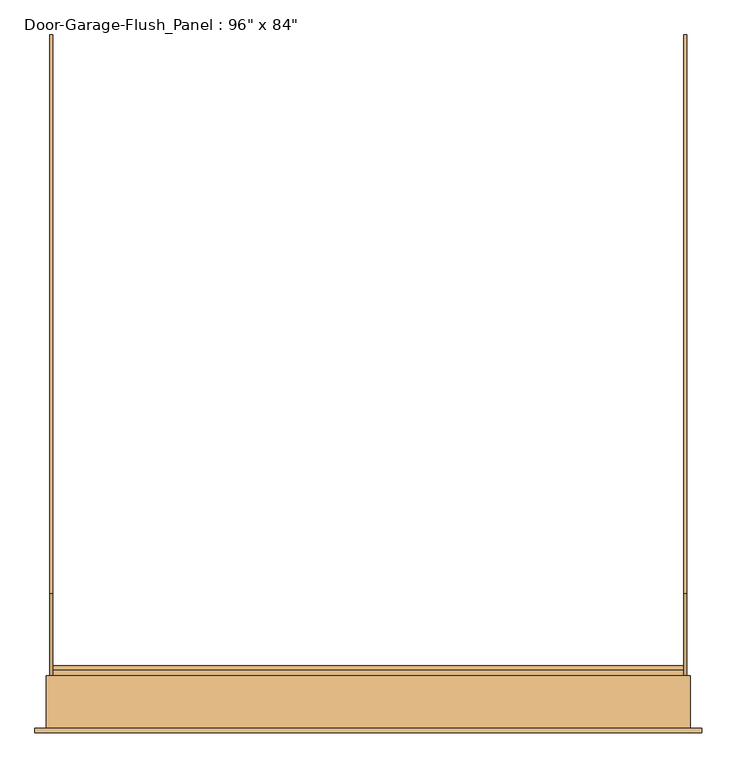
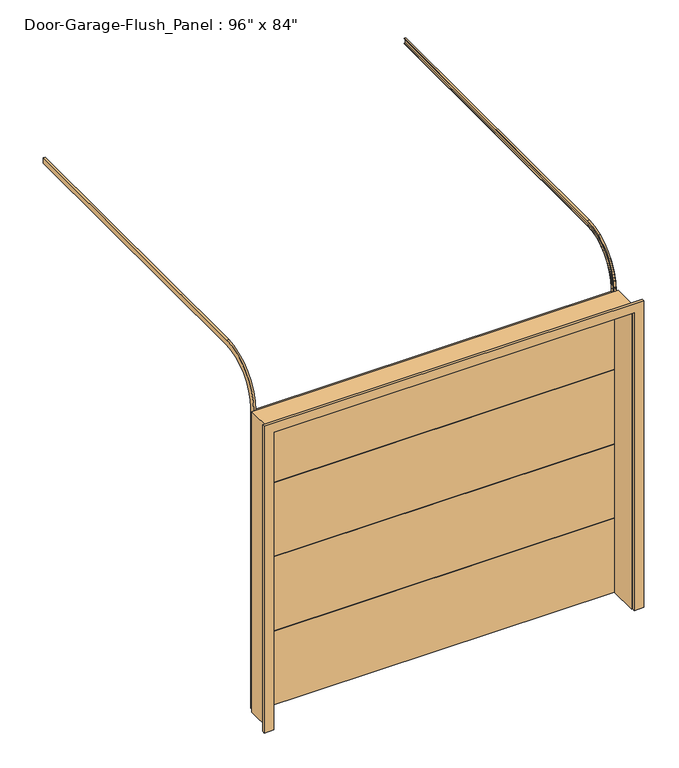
"""IFC4 building model written with IfcOpenShell, lengths in millimetres: door geometry."""

import ifcopenshell
import ifcopenshell.guid

model = None  # the IFC model being written
_history = None  # IfcOwnerHistory: only IFC2X3 demands one
_inside = {}  # id of a spatial element -> (the spatial element, [elements in it])
_under = {}  # id of a project, library or spatial element -> (it, [spatial elements below it])
_declared = {}  # id of a project -> (the project, [libraries it declares])
_typed = {}  # id of a type object -> (the type object, [elements of that type])
_made_of = {}  # id of a material, layer set ... -> (it, [elements and type objects made of it])


def new_model(schema):
    """Start an empty IFC model of exactly this schema.

    Asked for "IFC4X3", IfcOpenShell would pick the latest addendum, in which some entities
    have other attributes; the version numbers below select the first issue.
    IFC2X3 requires an IfcOwnerHistory on every rooted entity: one is made here for all.
    """
    global model, _history
    if schema == "IFC4X3":
        model = ifcopenshell.file(schema_version=(4, 3, 0, 0))
    else:
        model = ifcopenshell.file(schema=schema)
    _inside.clear()
    _under.clear()
    _declared.clear()
    _typed.clear()
    _made_of.clear()
    _history = None
    if model.schema == "IFC2X3":
        org = make("IfcOrganization", Name="unknown")
        user = make(
            "IfcPersonAndOrganization",
            ThePerson=make("IfcPerson", FamilyName="unknown"),
            TheOrganization=org,
        )
        app = make(
            "IfcApplication",
            ApplicationDeveloper=org,
            Version="unknown",
            ApplicationFullName="unknown",
            ApplicationIdentifier="unknown",
        )
        _history = make(
            "IfcOwnerHistory",
            OwningUser=user,
            OwningApplication=app,
            ChangeAction="ADDED",
            CreationDate=0,
        )
    return model


def make(cls, **values):
    """One entity of the class cls with the attributes given. An attribute that is None is left unset."""
    return model.create_entity(
        cls, **{name: value for name, value in values.items() if value is not None}
    )


def rooted(cls, **values):
    """An entity with a GlobalId (a new one), such as an element, a storey or a relation."""
    return make(cls, GlobalId=ifcopenshell.guid.new(), OwnerHistory=_history, **values)


def si_unit(unit_type, name, prefix=None):
    """IfcSIUnit, for example si_unit("LENGTHUNIT", "METRE", prefix="MILLI")."""
    return make("IfcSIUnit", UnitType=unit_type, Prefix=prefix, Name=name)


def assignment(units):
    """IfcUnitAssignment: the units of a project."""
    return None if units is None else make("IfcUnitAssignment", Units=units)


def point(xyz):
    """IfcCartesianPoint."""
    return None if xyz is None else make("IfcCartesianPoint", Coordinates=xyz)


def direction(xyz):
    """IfcDirection."""
    return None if xyz is None else make("IfcDirection", DirectionRatios=xyz)


def frame(location, z_axis=None, x_axis=None):
    """IfcAxis2Placement3D, a coordinate frame: its origin and axes. An axis left out is left unset."""
    return make(
        "IfcAxis2Placement3D",
        Location=point(location),
        Axis=direction(z_axis),
        RefDirection=direction(x_axis),
    )


def origin():
    """The frame at (0, 0, 0) with its axes left unset."""
    return frame((0.0, 0.0, 0.0))


def place(relative_to, where):
    """IfcLocalPlacement: puts the frame where relative to a parent placement (None: the world)."""
    return make(
        "IfcLocalPlacement", PlacementRelTo=relative_to, RelativePlacement=where
    )


def context(
    kind, dimensions, precision=None, world=None, true_north=None, identifier=None
):
    """IfcGeometricRepresentationContext, for example the 3D "Model" context."""
    return make(
        "IfcGeometricRepresentationContext",
        ContextIdentifier=identifier,
        ContextType=kind,
        CoordinateSpaceDimension=dimensions,
        Precision=precision,
        WorldCoordinateSystem=world,
        TrueNorth=true_north,
    )


def project(units=None, contexts=None):
    """IfcProject with its units and contexts."""
    return rooted(
        "IfcProject",
        Name="project",
        RepresentationContexts=contexts,
        UnitsInContext=assignment(units),
    )


def spatial(cls, under=None, at=None, **own):
    """A site, building, storey or space (cls), placed at a placement, below another one or the project."""
    s = rooted(cls, ObjectPlacement=at, **own)
    if under is not None:
        _under.setdefault(under.id(), (under, []))[1].append(s)
    return s


def polyline(points):
    """IfcPolyline through the points."""
    return make("IfcPolyline", Points=[point(p) for p in points])


def circle_curve(where, radius):
    """IfcCircle in the frame where."""
    return make("IfcCircle", Position=where, Radius=radius)


def outline(outer, holes=None, kind="AREA"):
    """IfcArbitraryClosedProfileDef: a profile drawn as a closed curve; with holes, ...WithVoids."""
    if holes is None:
        return make("IfcArbitraryClosedProfileDef", ProfileType=kind, OuterCurve=outer)
    return make(
        "IfcArbitraryProfileDefWithVoids",
        ProfileType=kind,
        OuterCurve=outer,
        InnerCurves=holes,
    )


def extrude(swept, where, along, depth):
    """IfcExtrudedAreaSolid: the profile swept, set in the frame where, extruded along a direction by depth."""
    return make(
        "IfcExtrudedAreaSolid",
        SweptArea=swept,
        Position=where,
        ExtrudedDirection=direction(along),
        Depth=depth,
    )


def shape(context_of_items, identifier, shape_type, items):
    """IfcShapeRepresentation: the items that make up one representation, for example the "Body"."""
    return make(
        "IfcShapeRepresentation",
        ContextOfItems=context_of_items,
        RepresentationIdentifier=identifier,
        RepresentationType=shape_type,
        Items=items,
    )


def source(mapping_origin, context_of_items, identifier, shape_type, items):
    """IfcRepresentationMap: a shape defined once, which mapped items show again and again."""
    return make(
        "IfcRepresentationMap",
        MappingOrigin=mapping_origin,
        MappedRepresentation=shape(context_of_items, identifier, shape_type, items),
    )


def transform(
    local_origin,
    x_axis=None,
    y_axis=None,
    z_axis=None,
    scale=None,
    scale2=None,
    scale3=None,
    uniform=True,
):
    """IfcCartesianTransformationOperator3D, or its non-uniform kind. x_axis, y_axis, z_axis: its Axis1, 2, 3."""
    if uniform:
        return make(
            "IfcCartesianTransformationOperator3D",
            Axis1=direction(x_axis),
            Axis2=direction(y_axis),
            LocalOrigin=point(local_origin),
            Scale=scale,
            Axis3=direction(z_axis),
        )
    return make(
        "IfcCartesianTransformationOperator3DnonUniform",
        Axis1=direction(x_axis),
        Axis2=direction(y_axis),
        LocalOrigin=point(local_origin),
        Scale=scale,
        Axis3=direction(z_axis),
        Scale2=scale2,
        Scale3=scale3,
    )


def mapped(mapping_source, mapping_target):
    """IfcMappedItem: shows the shape of a source again, moved by a transform."""
    return make(
        "IfcMappedItem", MappingSource=mapping_source, MappingTarget=mapping_target
    )


def made_of(thing, what):
    """Note that an element or type object is made of a material, layer set ...; save() writes the relation."""
    if what is not None:
        _made_of.setdefault(what.id(), (what, []))[1].append(thing)
    return thing


def element(
    cls,
    number,
    at=None,
    inside=None,
    cuts=None,
    type_object=None,
    material=None,
    context=None,
    identifier="Body",
    shape_type=None,
    held_by="IfcProductDefinitionShape",
    body=None,
    shapes=None,
    **own,
):
    """One element of the class cls, such as IfcWall. Its Tag is "e" and its number.

    at: its placement. inside: the storey or other place that contains it. cuts: it is an
    opening in that element (IfcRelVoidsElement). A single representation is given by context,
    identifier, shape_type and body (its items); several are given by shapes. held_by: the class
    of the entity that holds the representations. save() writes the other relations.
    """
    e = rooted(cls, Tag="e%d" % number, ObjectPlacement=at, **own)
    if body is not None:
        shapes = [shape(context, identifier, shape_type, body)]
    if shapes is not None:
        e.Representation = make(held_by, Representations=shapes)
    if inside is not None:
        _inside.setdefault(inside.id(), (inside, []))[1].append(e)
    if cuts is not None:
        rooted(
            "IfcRelVoidsElement", RelatingBuildingElement=cuts, RelatedOpeningElement=e
        )
    if type_object is not None:
        _typed.setdefault(type_object.id(), (type_object, []))[1].append(e)
    return made_of(e, material)


def aggregate(whole, parts):
    """IfcRelAggregates: a whole, such as a stair, and the parts it consists of."""
    return rooted("IfcRelAggregates", RelatingObject=whole, RelatedObjects=parts)


def save(model, path):
    """Write the relations noted so far, then the file.

    IfcRelAggregates (storeys below a building ...), IfcRelContainedInSpatialStructure (elements
    in a storey), IfcRelDefinesByType, IfcRelAssociatesMaterial and IfcRelDeclares: one each for
    every whole, place, type object, material and project.
    """
    for whole, parts in _under.values():
        aggregate(whole, parts)
    for where, things in _inside.values():
        rooted(
            "IfcRelContainedInSpatialStructure",
            RelatedElements=things,
            RelatingStructure=where,
        )
    for kind, things in _typed.values():
        rooted("IfcRelDefinesByType", RelatedObjects=things, RelatingType=kind)
    for what, things in _made_of.values():
        rooted("IfcRelAssociatesMaterial", RelatedObjects=things, RelatingMaterial=what)
    for by, libraries in _declared.values():
        rooted("IfcRelDeclares", RelatingContext=by, RelatedDefinitions=libraries)
    model.write(path)


def plane_surface(at):
    """IfcPlane: the flat surface through the origin of the frame at, square to its z axis."""
    return make("IfcPlane", Position=at)


def cylinder_surface(at, radius):
    """IfcCylindricalSurface: all points at the distance radius from the z axis of the frame at."""
    return make("IfcCylindricalSurface", Position=at, Radius=radius)


def revolved_surface(curve, axis_point, axis_direction):
    """IfcSurfaceOfRevolution: the curve turned about the line through axis_point along axis_direction."""
    return make(
        "IfcSurfaceOfRevolution",
        SweptCurve=make("IfcArbitraryOpenProfileDef", ProfileType="CURVE", Curve=curve),
        AxisPosition=make("IfcAxis1Placement", Location=point(axis_point), Axis=direction(axis_direction)),
    )


def advanced_brep(points, edges, surfaces, faces):
    """IfcAdvancedBrep: a solid bounded by faces that lie on surfaces and meet in shared edges.

    An edge is (start, end): straight between two places in points (the first is 0);
    or (start, end, curve); or (start, end, curve, False) where it runs against its curve.
    A face is (place in surfaces, loops), or (place, loops, False) where it looks against
    its surface's normal. A loop lists edges by number (the first is 1), with a minus sign
    where the edge is run from its end to its start. The first loop is the outer one.
    """
    corners = [point(p) for p in points]
    vertices = [make("IfcVertexPoint", VertexGeometry=c) for c in corners]
    made = []
    for start, end, *more in edges:
        made.append(
            make(
                "IfcEdgeCurve",
                EdgeStart=vertices[start],
                EdgeEnd=vertices[end],
                EdgeGeometry=more[0] if more else make("IfcPolyline", Points=[corners[start], corners[end]]),
                SameSense=more[1] if len(more) > 1 else True,
            )
        )
    hull = []
    for where, loops, *sense in faces:
        bounds = []
        for j, loop in enumerate(loops):
            ring = [make("IfcOrientedEdge", EdgeElement=made[abs(k) - 1], Orientation=k > 0) for k in loop]
            bounds.append(
                make(
                    "IfcFaceOuterBound" if j == 0 else "IfcFaceBound",
                    Bound=make("IfcEdgeLoop", EdgeList=ring),
                    Orientation=True,
                )
            )
        hull.append(make("IfcAdvancedFace", Bounds=bounds, FaceSurface=surfaces[where], SameSense=sense[0] if sense else True))
    return make("IfcAdvancedBrep", Outer=make("IfcClosedShell", CfsFaces=hull))


def door_1de94bf0(model_context):
    return source(origin(), model_context, "Body", "SolidModel", [
        extrude(outline(polyline([(127.0, 2136.775), (142.875, 2136.775), (142.875, 1606.55), (120.65, 1606.55), (120.65, 1600.2), (104.775, 1600.2), (104.775, 2130.425), (127.0, 2130.425), (127.0, 2136.775)])), frame((-1219.2, 0.0, 0.0), z_axis=(1.0, 0.0, 0.0), x_axis=(0.0, 1.0, 0.0)), (0.0, 0.0, 1.0), 2438.4),
        extrude(outline(polyline([(127.0, 1603.375), (142.875, 1603.375), (142.875, 1073.15), (120.65, 1073.15), (120.65, 1066.8), (104.775, 1066.8), (104.775, 1597.025), (127.0, 1597.025), (127.0, 1603.375)])), frame((-1219.2, 0.0, 0.0), z_axis=(1.0, 0.0, 0.0), x_axis=(0.0, 1.0, 0.0)), (0.0, 0.0, 1.0), 2438.4),
        extrude(outline(polyline([(127.0, 1069.975), (142.875, 1069.975), (142.875, 539.75), (120.65, 539.75), (120.65, 533.4), (104.775, 533.4), (104.775, 1063.625), (127.0, 1063.625), (127.0, 1069.975)])), frame((-1219.2, 0.0, 0.0), z_axis=(1.0, 0.0, 0.0), x_axis=(0.0, 1.0, 0.0)), (0.0, 0.0, 1.0), 2438.4),
        extrude(outline(polyline([(127.0, 536.575), (142.875, 536.575), (142.875, 6.35), (120.65, 6.35), (120.65, 0.0), (104.775, 0.0), (104.775, 530.225), (127.0, 530.225), (127.0, 536.575)])), frame((-1219.2, 0.0, 0.0), z_axis=(1.0, 0.0, 0.0), x_axis=(0.0, 1.0, 0.0)), (0.0, 0.0, 1.0), 2438.4),
        advanced_brep(
        [(1231.9, 2581.275, 2438.4), (1219.2, 2581.275, 2438.4), (1219.2, 2581.275, 2441.575), (1228.725, 2581.275, 2441.575), (1228.725, 2581.275, 2473.325), (1219.2, 2581.275, 2473.325), (1219.2, 2581.275, 2476.5), (1231.9, 2581.275, 2476.5), (1231.9, 422.275, 2476.5), (1231.9, 104.775, 2159.0), (1231.9, 104.775, 0.0), (1231.9, 142.875, 0.0), (1231.9, 142.875, 2159.0), (1231.9, 422.275, 2438.4), (1219.2, 422.275, 2476.5), (1219.2, 422.275, 2473.325), (1219.2, 107.95, 2159.0), (1219.2, 107.95, 0.0), (1219.2, 104.775, 0.0), (1219.2, 104.775, 2159.0), (1228.725, 422.275, 2473.325), (1228.725, 422.275, 2441.575), (1228.725, 139.7, 2159.0), (1228.725, 139.7, 0.0), (1228.725, 107.95, 0.0), (1228.725, 107.95, 2159.0), (1219.2, 422.275, 2441.575), (1219.2, 422.275, 2438.4), (1219.2, 142.875, 2159.0), (1219.2, 142.875, 0.0), (1219.2, 139.7, 0.0), (1219.2, 139.7, 2159.0)],
        [
            (0, 1),
            (1, 2),
            (2, 3),
            (3, 4),
            (4, 5),
            (5, 6),
            (6, 7),
            (7, 0),
            (7, 8),
            (8, 9, circle_curve(frame((1231.9, 422.275, 2159.0), z_axis=(1.0, 0.0, 0.0), x_axis=(0.0, 0.0, 1.0)), 317.5)),
            (9, 10),
            (10, 11),
            (11, 12),
            (12, 13, circle_curve(frame((1231.9, 422.275, 2159.0), z_axis=(-1.0, 0.0, 0.0), x_axis=(0.0, 0.0, 1.0)), 279.4)),
            (13, 0),
            (6, 14),
            (14, 8),
            (5, 15),
            (15, 16, circle_curve(frame((1219.2, 422.275, 2159.0), z_axis=(1.0, 0.0, 0.0), x_axis=(0.0, 0.0, 1.0)), 314.325)),
            (16, 17),
            (17, 18),
            (18, 19),
            (19, 14, circle_curve(frame((1219.2, 422.275, 2159.0), z_axis=(-1.0, 0.0, 0.0), x_axis=(0.0, 0.0, 1.0)), 317.5)),
            (4, 20),
            (20, 15),
            (3, 21),
            (21, 22, circle_curve(frame((1228.725, 422.275, 2159.0), z_axis=(1.0, 0.0, 0.0), x_axis=(0.0, 0.0, 1.0)), 282.575)),
            (22, 23),
            (23, 24),
            (24, 25),
            (25, 20, circle_curve(frame((1228.725, 422.275, 2159.0), z_axis=(-1.0, 0.0, 0.0), x_axis=(0.0, 0.0, 1.0)), 314.325)),
            (2, 26),
            (26, 21),
            (1, 27),
            (27, 28, circle_curve(frame((1219.2, 422.275, 2159.0), z_axis=(1.0, 0.0, 0.0), x_axis=(0.0, 0.0, 1.0)), 279.4)),
            (28, 29),
            (29, 30),
            (30, 31),
            (31, 26, circle_curve(frame((1219.2, 422.275, 2159.0), z_axis=(-1.0, 0.0, 0.0), x_axis=(0.0, 0.0, 1.0)), 282.575)),
            (13, 27),
            (19, 9),
            (25, 16),
            (31, 22),
            (12, 28),
            (10, 18),
            (17, 24),
            (23, 30),
            (29, 11),
        ],
        [
            plane_surface(frame((0.0, 2581.275, 2438.4), z_axis=(0.0, 1.0, 0.0), x_axis=(1.0, 0.0, 0.0))),
            plane_surface(frame((1231.9, 2581.275, 2438.4), z_axis=(1.0, 0.0, 0.0), x_axis=(0.0, -1.0, 0.0))),
            plane_surface(frame((1231.9, 2581.275, 2476.5), z_axis=(0.0, 0.0, 1.0), x_axis=(0.0, -1.0, 0.0))),
            plane_surface(frame((1219.2, 2581.275, 2476.5), z_axis=(-1.0, 0.0, 0.0), x_axis=(0.0, -1.0, 0.0))),
            plane_surface(frame((1219.2, 2581.275, 2473.325), z_axis=(0.0, 0.0, -1.0), x_axis=(0.0, -1.0, 0.0))),
            plane_surface(frame((1228.725, 2581.275, 2473.325), z_axis=(-1.0, 0.0, 0.0), x_axis=(0.0, -1.0, 0.0))),
            plane_surface(frame((1228.725, 2581.275, 2441.575), z_axis=(0.0, 0.0, 1.0), x_axis=(0.0, -1.0, 0.0))),
            plane_surface(frame((1219.2, 2581.275, 2441.575), z_axis=(-1.0, 0.0, 0.0), x_axis=(0.0, -1.0, 0.0))),
            plane_surface(frame((1219.2, 2581.275, 2438.4), z_axis=(0.0, 0.0, -1.0), x_axis=(0.0, -1.0, 0.0))),
            cylinder_surface(frame((0.0, 422.275, 2159.0), z_axis=(-1.0, 0.0, 0.0), x_axis=(0.0, 0.0, 1.0)), 317.5),
            revolved_surface(polyline([(1219.2, 422.275, 2473.325), (1228.725, 422.275, 2473.325)]), (0.0, 422.275, 2159.0), (-1.0, 0.0, 0.0)),
            cylinder_surface(frame((0.0, 422.275, 2159.0), z_axis=(-1.0, 0.0, 0.0), x_axis=(0.0, 0.0, 1.0)), 282.575),
            revolved_surface(polyline([(1219.2, 422.275, 2438.4), (1231.9, 422.275, 2438.4)]), (0.0, 422.275, 2159.0), (-1.0, 0.0, 0.0)),
            plane_surface(frame((0.0, 142.875, 0.0), z_axis=(0.0, 0.0, -1.0), x_axis=(1.0, 0.0, 0.0))),
            plane_surface(frame((1231.9, 104.775, 2159.0), z_axis=(0.0, -1.0, 0.0), x_axis=(0.0, 0.0, -1.0))),
            plane_surface(frame((1219.2, 107.95, 2159.0), z_axis=(0.0, 1.0, 0.0), x_axis=(0.0, 0.0, -1.0))),
            plane_surface(frame((1228.725, 139.7, 2159.0), z_axis=(0.0, -1.0, 0.0), x_axis=(0.0, 0.0, -1.0))),
            plane_surface(frame((1219.2, 142.875, 2159.0), z_axis=(0.0, 1.0, 0.0), x_axis=(0.0, 0.0, -1.0))),
        ],
        [
            (0, [[1, 2, 3, 4, 5, 6, 7, 8]]),
            (1, [[9, 10, 11, 12, 13, 14, 15, -8]]),
            (2, [[16, 17, -9, -7]]),
            (3, [[18, 19, 20, 21, 22, 23, -16, -6]]),
            (4, [[24, 25, -18, -5]]),
            (5, [[26, 27, 28, 29, 30, 31, -24, -4]]),
            (6, [[32, 33, -26, -3]]),
            (7, [[34, 35, 36, 37, 38, 39, -32, -2]]),
            (8, [[-15, 40, -34, -1]]),
            (9, [[41, -10, -17, -23]]),
            (10, [[42, -19, -25, -31]]),
            (11, [[43, -27, -33, -39]]),
            (12, [[44, -35, -40, -14]]),
            (13, [[-12, 45, -21, 46, -29, 47, -37, 48]]),
            (14, [[-22, -45, -11, -41]]),
            (15, [[-30, -46, -20, -42]]),
            (16, [[-38, -47, -28, -43]]),
            (17, [[-13, -48, -36, -44]]),
        ],
    ),
        advanced_brep(
        [(-1231.9, 2581.275, 2438.4), (-1231.9, 2581.275, 2476.5), (-1219.2, 2581.275, 2476.5), (-1219.2, 2581.275, 2473.325), (-1228.725, 2581.275, 2473.325), (-1228.725, 2581.275, 2441.575), (-1219.2, 2581.275, 2441.575), (-1219.2, 2581.275, 2438.4), (-1219.2, 422.275, 2438.4), (-1231.9, 422.275, 2438.4), (-1219.2, 422.275, 2441.575), (-1219.2, 139.7, 2159.0), (-1219.2, 139.7, 0.0), (-1219.2, 142.875, 0.0), (-1219.2, 142.875, 2159.0), (-1228.725, 422.275, 2441.575), (-1228.725, 422.275, 2473.325), (-1228.725, 107.95, 2159.0), (-1228.725, 107.95, 0.0), (-1228.725, 139.7, 0.0), (-1228.725, 139.7, 2159.0), (-1219.2, 422.275, 2473.325), (-1219.2, 422.275, 2476.5), (-1219.2, 104.775, 2159.0), (-1219.2, 104.775, 0.0), (-1219.2, 107.95, 0.0), (-1219.2, 107.95, 2159.0), (-1231.9, 422.275, 2476.5), (-1231.9, 142.875, 2159.0), (-1231.9, 142.875, 0.0), (-1231.9, 104.775, 0.0), (-1231.9, 104.775, 2159.0)],
        [
            (0, 1),
            (1, 2),
            (2, 3),
            (3, 4),
            (4, 5),
            (5, 6),
            (6, 7),
            (7, 0),
            (7, 8),
            (8, 9),
            (9, 0),
            (6, 10),
            (10, 11, circle_curve(frame((-1219.2, 422.275, 2159.0), z_axis=(1.0, 0.0, 0.0), x_axis=(0.0, 0.0, 1.0)), 282.575)),
            (11, 12),
            (12, 13),
            (13, 14),
            (14, 8, circle_curve(frame((-1219.2, 422.275, 2159.0), z_axis=(-1.0, 0.0, 0.0), x_axis=(0.0, 0.0, 1.0)), 279.4)),
            (5, 15),
            (15, 10),
            (4, 16),
            (16, 17, circle_curve(frame((-1228.725, 422.275, 2159.0), z_axis=(1.0, 0.0, 0.0), x_axis=(0.0, 0.0, 1.0)), 314.325)),
            (17, 18),
            (18, 19),
            (19, 20),
            (20, 15, circle_curve(frame((-1228.725, 422.275, 2159.0), z_axis=(-1.0, 0.0, 0.0), x_axis=(0.0, 0.0, 1.0)), 282.575)),
            (3, 21),
            (21, 16),
            (2, 22),
            (22, 23, circle_curve(frame((-1219.2, 422.275, 2159.0), z_axis=(1.0, 0.0, 0.0), x_axis=(0.0, 0.0, 1.0)), 317.5)),
            (23, 24),
            (24, 25),
            (25, 26),
            (26, 21, circle_curve(frame((-1219.2, 422.275, 2159.0), z_axis=(-1.0, 0.0, 0.0), x_axis=(0.0, 0.0, 1.0)), 314.325)),
            (1, 27),
            (27, 22),
            (9, 28, circle_curve(frame((-1231.9, 422.275, 2159.0), z_axis=(1.0, 0.0, 0.0), x_axis=(0.0, 0.0, 1.0)), 279.4)),
            (28, 29),
            (29, 30),
            (30, 31),
            (31, 27, circle_curve(frame((-1231.9, 422.275, 2159.0), z_axis=(-1.0, 0.0, 0.0), x_axis=(0.0, 0.0, 1.0)), 317.5)),
            (14, 28),
            (20, 11),
            (26, 17),
            (31, 23),
            (29, 13),
            (12, 19),
            (18, 25),
            (24, 30),
        ],
        [
            plane_surface(frame((0.0, 2581.275, 2438.4), z_axis=(0.0, 1.0, 0.0), x_axis=(1.0, 0.0, 0.0))),
            plane_surface(frame((-1231.9, 2581.275, 2438.4), z_axis=(0.0, 0.0, -1.0), x_axis=(0.0, -1.0, 0.0))),
            plane_surface(frame((-1219.2, 2581.275, 2438.4), z_axis=(1.0, 0.0, 0.0), x_axis=(0.0, -1.0, 0.0))),
            plane_surface(frame((-1219.2, 2581.275, 2441.575), z_axis=(0.0, 0.0, 1.0), x_axis=(0.0, -1.0, 0.0))),
            plane_surface(frame((-1228.725, 2581.275, 2441.575), z_axis=(1.0, 0.0, 0.0), x_axis=(0.0, -1.0, 0.0))),
            plane_surface(frame((-1228.725, 2581.275, 2473.325), z_axis=(0.0, 0.0, -1.0), x_axis=(0.0, -1.0, 0.0))),
            plane_surface(frame((-1219.2, 2581.275, 2473.325), z_axis=(1.0, 0.0, 0.0), x_axis=(0.0, -1.0, 0.0))),
            plane_surface(frame((-1219.2, 2581.275, 2476.5), z_axis=(0.0, 0.0, 1.0), x_axis=(0.0, -1.0, 0.0))),
            plane_surface(frame((-1231.9, 2581.275, 2476.5), z_axis=(-1.0, 0.0, 0.0), x_axis=(0.0, -1.0, 0.0))),
            revolved_surface(polyline([(-1231.9, 422.275, 2438.4), (-1219.2, 422.275, 2438.4)]), (0.0, 422.275, 2159.0), (-1.0, 0.0, 0.0)),
            cylinder_surface(frame((0.0, 422.275, 2159.0), z_axis=(-1.0, 0.0, 0.0), x_axis=(0.0, 0.0, 1.0)), 282.575),
            revolved_surface(polyline([(-1228.725, 422.275, 2473.325), (-1219.2, 422.275, 2473.325)]), (0.0, 422.275, 2159.0), (-1.0, 0.0, 0.0)),
            cylinder_surface(frame((0.0, 422.275, 2159.0), z_axis=(-1.0, 0.0, 0.0), x_axis=(0.0, 0.0, 1.0)), 317.5),
            plane_surface(frame((0.0, 142.875, 0.0), z_axis=(0.0, 0.0, -1.0), x_axis=(1.0, 0.0, 0.0))),
            plane_surface(frame((-1231.9, 142.875, 2159.0), z_axis=(0.0, 1.0, 0.0), x_axis=(0.0, 0.0, -1.0))),
            plane_surface(frame((-1219.2, 139.7, 2159.0), z_axis=(0.0, -1.0, 0.0), x_axis=(0.0, 0.0, -1.0))),
            plane_surface(frame((-1228.725, 107.95, 2159.0), z_axis=(0.0, 1.0, 0.0), x_axis=(0.0, 0.0, -1.0))),
            plane_surface(frame((-1219.2, 104.775, 2159.0), z_axis=(0.0, -1.0, 0.0), x_axis=(0.0, 0.0, -1.0))),
        ],
        [
            (0, [[1, 2, 3, 4, 5, 6, 7, 8]]),
            (1, [[9, 10, 11, -8]]),
            (2, [[12, 13, 14, 15, 16, 17, -9, -7]]),
            (3, [[18, 19, -12, -6]]),
            (4, [[20, 21, 22, 23, 24, 25, -18, -5]]),
            (5, [[26, 27, -20, -4]]),
            (6, [[28, 29, 30, 31, 32, 33, -26, -3]]),
            (7, [[34, 35, -28, -2]]),
            (8, [[-11, 36, 37, 38, 39, 40, -34, -1]]),
            (9, [[41, -36, -10, -17]]),
            (10, [[42, -13, -19, -25]]),
            (11, [[43, -21, -27, -33]]),
            (12, [[44, -29, -35, -40]]),
            (13, [[45, -15, 46, -23, 47, -31, 48, -38]]),
            (14, [[-16, -45, -37, -41]]),
            (15, [[-24, -46, -14, -42]]),
            (16, [[-32, -47, -22, -43]]),
            (17, [[-39, -48, -30, -44]]),
        ],
    ),
        extrude(outline(polyline([(0.0, 1244.6), (2159.0, 1244.6), (2159.0, -1244.6), (0.0, -1244.6), (0.0, -1219.2), (2133.6, -1219.2), (2133.6, 1219.2), (0.0, 1219.2), (0.0, 1244.6)])), frame((0.0, -98.425, 0.0), z_axis=(0.0, 1.0, 0.0), x_axis=(0.0, 0.0, 1.0)), (0.0, 0.0, 1.0), 203.2),
        extrude(outline(polyline([(0.0, 1289.05), (2203.45, 1289.05), (2203.45, -1289.05), (0.0, -1289.05), (0.0, -1225.55), (2139.95, -1225.55), (2139.95, 1225.55), (0.0, 1225.55), (0.0, 1289.05)])), frame((0.0, -117.475, 0.0), z_axis=(0.0, 1.0, 0.0), x_axis=(0.0, 0.0, 1.0)), (0.0, 0.0, 1.0), 19.05),
    ])


if __name__ == "__main__":
    model = new_model("IFC4")
    model_context = context("Model", 3, world=origin())
    ifc_project = project(units=[si_unit("LENGTHUNIT", "METRE", prefix="MILLI")], contexts=[model_context])
    site = spatial("IfcSite", under=ifc_project)
    building = spatial("IfcBuilding", under=site)
    placement = place(None, origin())
    door_shape = door_1de94bf0(model_context)
    element("IfcDoor", 1, ObjectType="Door-Garage-Flush_Panel : 96\" x 84\"", at=placement, inside=building, context=model_context, shape_type="MappedRepresentation", body=[
        mapped(door_shape, transform((0.0, 0.0, 0.0), x_axis=(1.0, 0.0, 0.0), y_axis=(0.0, 1.0, 0.0), z_axis=(0.0, 0.0, 1.0))),
    ])
    save(model, "model.ifc")
